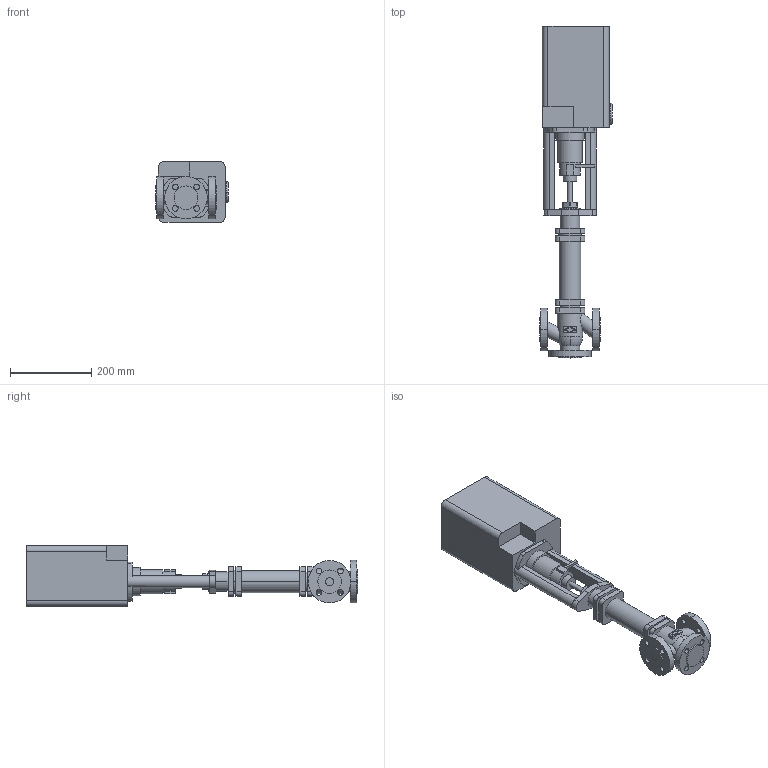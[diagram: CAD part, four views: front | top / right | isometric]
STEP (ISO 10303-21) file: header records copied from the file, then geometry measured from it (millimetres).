
FILE_DESCRIPTION(('OneSpaceDesigner STEP Export'),'2;1');
FILE_NAME('c000002442.stp','2006-09-21T11:46:37',(''),(''),'OneSpace Designer STEP processor for AP214 (Solid Model)','OneSpace Designer 13.20A 18-Aug-2005 (C) CoCreate Software GmbH','');
FILE_SCHEMA(('AUTOMOTIVE_DESIGN { 1 0 10303 214 1 1 1 1 }'));
Length unit declared in the file: millimetre
Products named in the file (2): 1; 2
Bounding box: 179.6 x 819 x 150 mm (x, y, z)
Volume: 8272736.1 mm3; surface area: 450616 mm2
Topology: 2 solids, 2 shells, 229 faces, 583 edges, 389 vertices
Faces by surface type: plane 113, cylinder 112, torus 4
Entity records: 6631 total; most frequent: CARTESIAN_POINT 1229, ORIENTED_EDGE 1166, DIRECTION 1045, EDGE_CURVE 583, VERTEX_POINT 389, AXIS2_PLACEMENT_3D 361, VECTOR 323, LINE 323
